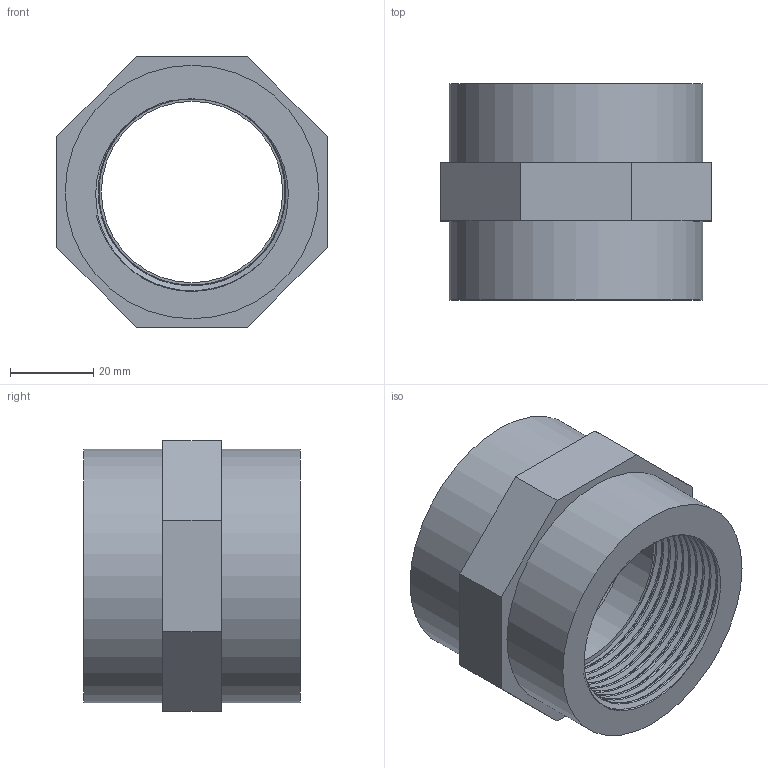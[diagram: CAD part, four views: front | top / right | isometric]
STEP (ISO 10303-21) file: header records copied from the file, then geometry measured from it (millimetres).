
FILE_DESCRIPTION(/* description */ ('PVC manicotto filettato BSP femmina'),/* implementation_level */ '2;1');
FILE_NAME(/* name */ 'C:\Users\POLYPIPE\Desktop\DATASET INVENTOR\LIBRERIA EFFAST\RACCORDI 3DxWEB\RER\3D_RERMAE\3D_RERMAE050F.stp',/* time_stamp */ '2018-01-19T16:37:28+01:00',/* author */ ('POLYPIPE'),/* organization */ ('Polypipe Italia'),/* preprocessor_version */ 'ST-DEVELOPER v16.1',/* originating_system */ 'Autodesk Inventor 2016',/* authorisation */ '');
FILE_SCHEMA (('CONFIG_CONTROL_DESIGN'));
Length unit declared in the file: millimetre
Products named in the file (1): 3D_RERMAE
Bounding box: 65 x 52 x 65 mm (x, y, z)
Volume: 74089.5 mm3; surface area: 26230.8 mm2
Topology: 1 solids, 1 shells, 27 faces, 63 edges, 42 vertices
Faces by surface type: plane 14, bspline 10, cylinder 3
Full cylindrical faces by diameter (mm): 43.645 x1, 61 x2
Entity records: 8150 total; most frequent: CARTESIAN_POINT 7594, ORIENTED_EDGE 120, DIRECTION 72, EDGE_CURVE 60, VERTEX_POINT 42, EDGE_LOOP 36, B_SPLINE_CURVE_WITH_KNOTS 30, FACE_OUTER_BOUND 27
